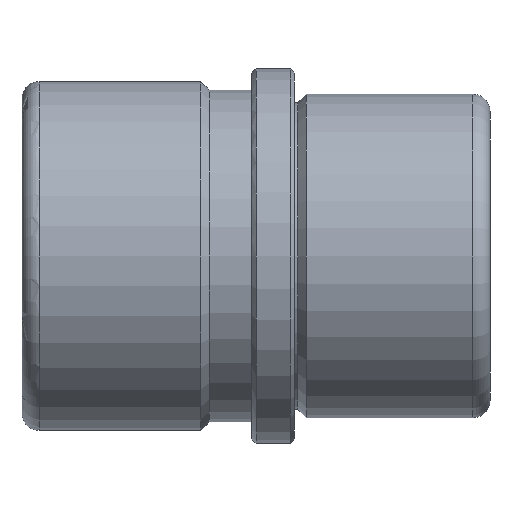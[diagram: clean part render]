
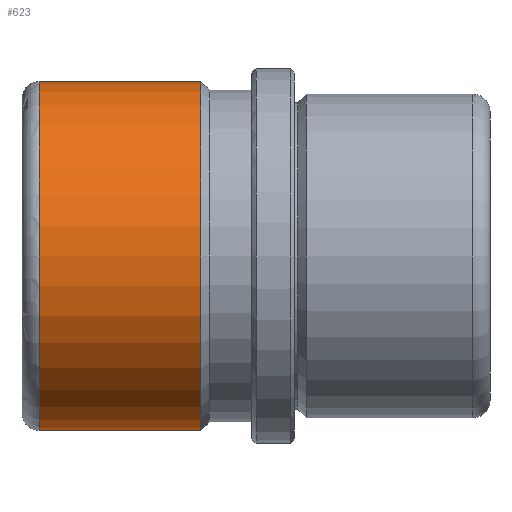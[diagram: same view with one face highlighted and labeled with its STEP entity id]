
A CAD part, front view. The second image highlights one B-rep face of the part: STEP entity #623.
In plain terms, the highlighted cylindrical face has radius 20.5 mm (diameter 41 mm), a partial arc.
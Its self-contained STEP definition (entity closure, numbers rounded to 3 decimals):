
#398=CARTESIAN_POINT('Line Origine',(23.,0.,20.5)) ;
#402=CARTESIAN_POINT('Vertex',(-11.,0.,20.5)) ;
#404=CARTESIAN_POINT('Vertex',(-30.,0.,20.5)) ;
#418=CARTESIAN_POINT('Vertex',(-11.,0.,-20.5)) ;
#421=CARTESIAN_POINT('Line Origine',(23.,0.,-20.5)) ;
#425=CARTESIAN_POINT('Vertex',(-30.,0.,-20.5)) ;
#586=CARTESIAN_POINT('Axis2P3D Location',(23.,0.,0.)) ;
#591=CARTESIAN_POINT('Axis2P3D Location',(-11.,0.,0.)) ;
#595=CARTESIAN_POINT('Vertex',(-11.,-20.5,0.)) ;
#598=CARTESIAN_POINT('Axis2P3D Location',(-11.,0.,0.)) ;
#603=CARTESIAN_POINT('Axis2P3D Location',(-30.,0.,0.)) ;
#607=CARTESIAN_POINT('Vertex',(-30.,-20.5,0.)) ;
#610=CARTESIAN_POINT('Axis2P3D Location',(-30.,0.,0.)) ;
#399=DIRECTION('Vector Direction',(-1.,0.,0.)) ;
#422=DIRECTION('Vector Direction',(-1.,0.,0.)) ;
#587=DIRECTION('Axis2P3D Direction',(-1.,-0.,-0.)) ;
#588=DIRECTION('Axis2P3D XDirection',(0.,0.,-1.)) ;
#592=DIRECTION('Axis2P3D Direction',(-1.,-0.,-0.)) ;
#599=DIRECTION('Axis2P3D Direction',(-1.,-0.,-0.)) ;
#604=DIRECTION('Axis2P3D Direction',(-1.,-0.,-0.)) ;
#611=DIRECTION('Axis2P3D Direction',(-1.,-0.,-0.)) ;
#589=AXIS2_PLACEMENT_3D('Cylinder Axis2P3D',#586,#587,#588) ;
#593=AXIS2_PLACEMENT_3D('Circle Axis2P3D',#591,#592,$) ;
#600=AXIS2_PLACEMENT_3D('Circle Axis2P3D',#598,#599,$) ;
#605=AXIS2_PLACEMENT_3D('Circle Axis2P3D',#603,#604,$) ;
#612=AXIS2_PLACEMENT_3D('Circle Axis2P3D',#610,#611,$) ;
#616=ORIENTED_EDGE('',*,*,#427,.T.) ;
#617=ORIENTED_EDGE('',*,*,#597,.F.) ;
#618=ORIENTED_EDGE('',*,*,#602,.F.) ;
#619=ORIENTED_EDGE('',*,*,#406,.T.) ;
#620=ORIENTED_EDGE('',*,*,#609,.T.) ;
#621=ORIENTED_EDGE('',*,*,#614,.T.) ;
#400=VECTOR('Line Direction',#399,1.) ;
#423=VECTOR('Line Direction',#422,1.) ;
#623=ADVANCED_FACE('FAMO-SF1-C25 x 55',(#622),#590,.T.) ;
#594=CIRCLE('generated circle',#593,20.5) ;
#601=CIRCLE('generated circle',#600,20.5) ;
#606=CIRCLE('generated circle',#605,20.5) ;
#613=CIRCLE('generated circle',#612,20.5) ;
#590=CYLINDRICAL_SURFACE('generated cylinder',#589,20.5) ;
#406=EDGE_CURVE('',#403,#405,#401,.T.) ;
#427=EDGE_CURVE('',#426,#419,#424,.F.) ;
#597=EDGE_CURVE('',#596,#419,#594,.F.) ;
#602=EDGE_CURVE('',#403,#596,#601,.F.) ;
#609=EDGE_CURVE('',#405,#608,#606,.F.) ;
#614=EDGE_CURVE('',#608,#426,#613,.F.) ;
#615=EDGE_LOOP('',(#616,#617,#618,#619,#620,#621)) ;
#622=FACE_OUTER_BOUND('',#615,.T.) ;
#401=LINE('Line',#398,#400) ;
#424=LINE('Line',#421,#423) ;
#403=VERTEX_POINT('',#402) ;
#405=VERTEX_POINT('',#404) ;
#419=VERTEX_POINT('',#418) ;
#426=VERTEX_POINT('',#425) ;
#596=VERTEX_POINT('',#595) ;
#608=VERTEX_POINT('',#607) ;
